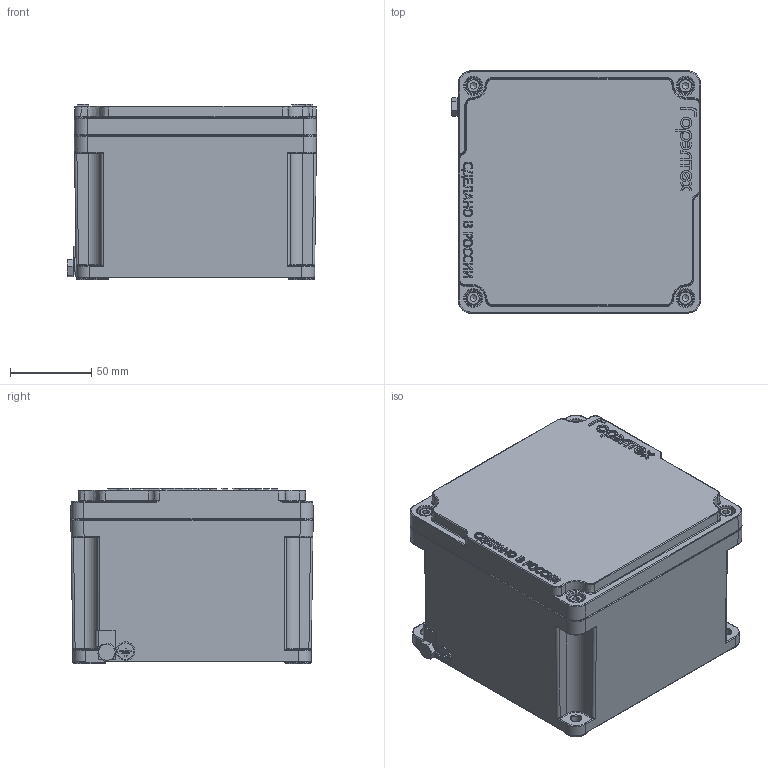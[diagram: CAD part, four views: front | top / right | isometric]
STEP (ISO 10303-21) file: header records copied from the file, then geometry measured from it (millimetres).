
FILE_DESCRIPTION((''),'2;1');
FILE_NAME('\\192.168.5.25\cortem_klient\INVENTOR БАЗА МОДЕЛЕЙ\Актуальная база моделей для отдела продаж\КСРВ\КСРВ141410_М1.stp','2019-04-09T11:24:58',('A.S.Kozlov'),(''),'Autodesk Inventor 2012','Autodesk Inventor 2012','');
FILE_SCHEMA(('CONFIG_CONTROL_DESIGN'));
Length unit declared in the file: millimetre
Products named in the file (1): КСРВ141410_М1_Внешний контур_1
Bounding box: 153.79 x 149.59 x 108 mm (x, y, z)
Surface area: 217506.2 mm2 (no closed solid volume)
Topology: 0 solids, 16 shells, 1745 faces, 4252 edges, 2586 vertices
Faces by surface type: bspline 593, plane 547, cylinder 382, torus 139, cone 73, sphere 11
Full cylindrical faces by diameter (mm): 4.1 x9, 4.567 x1, 4.9 x1, 5 x5, 5.3 x1, 5.459 x1, 6 x2, 6.5 x1, 6.7 x1, 8.5 x4, 8.7 x1, 10 x3, 11.4 x2
Entity records: 78449 total; most frequent: CARTESIAN_POINT 39528, ORIENTED_EDGE 8114, DIRECTION 6573, EDGE_CURVE 4057, VERTEX_POINT 2568, AXIS2_PLACEMENT_3D 2329, EDGE_LOOP 2009, VECTOR 1915
